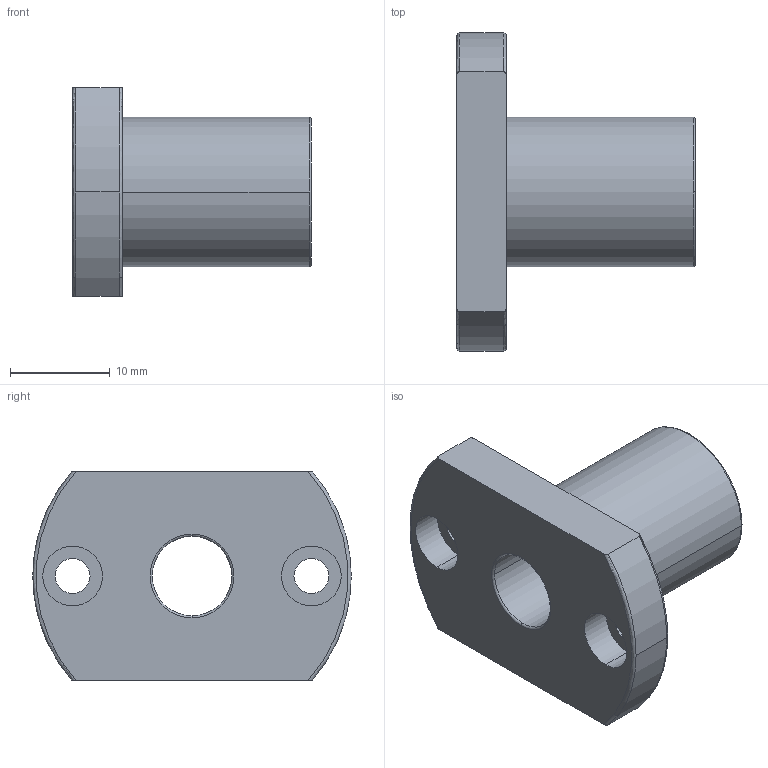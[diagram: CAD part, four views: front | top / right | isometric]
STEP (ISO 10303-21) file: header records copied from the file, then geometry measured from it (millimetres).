
FILE_DESCRIPTION(('FreeCAD Model'),'2;1');
FILE_NAME('Open CASCADE Shape Model','2021-05-03T13:38:53',('Author'),( ''),'Open CASCADE STEP processor 7.5','FreeCAD','Unknown');
FILE_SCHEMA(('AUTOMOTIVE_DESIGN { 1 0 10303 214 1 1 1 1 }'));
Length unit declared in the file: millimetre
Products named in the file (1): linear_lmh8uu
Bounding box: 24 x 32 x 21 mm (x, y, z)
Volume: 5036.6 mm3; surface area: 3207.2 mm2
Topology: 1 solids, 1 shells, 33 faces, 87 edges, 59 vertices
Faces by surface type: cylinder 16, torus 10, plane 7
Entity records: 2774 total; most frequent: CARTESIAN_POINT 1000, DIRECTION 345, ORIENTED_EDGE 174, PCURVE 174, DEFINITIONAL_REPRESENTATION 174, LINE 149, VECTOR 149, AXIS2_PLACEMENT_3D 91
